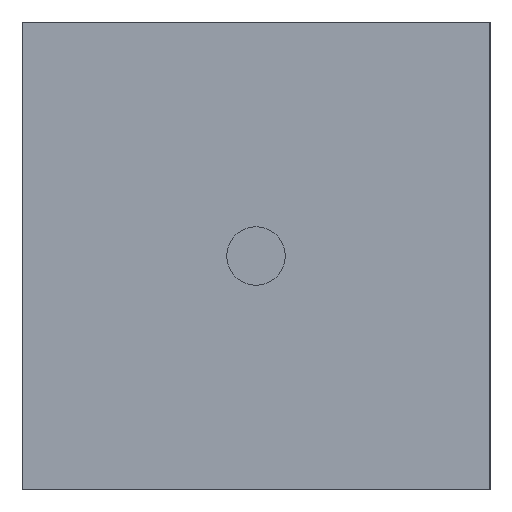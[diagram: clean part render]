
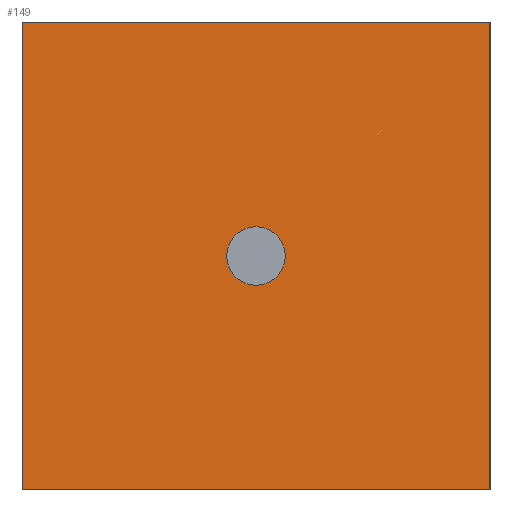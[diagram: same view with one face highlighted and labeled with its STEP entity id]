
A CAD part, left-side view. The second image highlights one B-rep face of the part: STEP entity #149.
In plain terms, the highlighted planar face has unit normal (-1, 0, 0).
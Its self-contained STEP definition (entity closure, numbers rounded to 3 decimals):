
#29=FACE_OUTER_BOUND('',#41,.T.);
#41=EDGE_LOOP('',(#113,#114,#115,#116));
#59=LINE('',#240,#71);
#60=LINE('',#243,#72);
#61=LINE('',#245,#73);
#62=LINE('',#246,#74);
#71=VECTOR('',#191,6.4);
#72=VECTOR('',#194,6.4);
#73=VECTOR('',#195,6.4);
#74=VECTOR('',#196,6.4);
#81=VERTEX_POINT('',#236);
#82=VERTEX_POINT('',#238);
#83=VERTEX_POINT('',#242);
#84=VERTEX_POINT('',#244);
#95=EDGE_CURVE('',#81,#82,#59,.T.);
#96=EDGE_CURVE('',#81,#83,#60,.T.);
#97=EDGE_CURVE('',#84,#82,#61,.T.);
#98=EDGE_CURVE('',#83,#84,#62,.T.);
#113=ORIENTED_EDGE('',*,*,#96,.F.);
#114=ORIENTED_EDGE('',*,*,#95,.T.);
#115=ORIENTED_EDGE('',*,*,#97,.F.);
#116=ORIENTED_EDGE('',*,*,#98,.F.);
#139=PLANE('',#165);
#149=ADVANCED_FACE('',(#29),#139,.T.);
#165=AXIS2_PLACEMENT_3D('',#241,#192,#193);
#191=DIRECTION('',(0.,1.,0.));
#192=DIRECTION('center_axis',(-1.,0.,0.));
#193=DIRECTION('ref_axis',(0.,0.,1.));
#194=DIRECTION('',(0.,0.,-1.));
#195=DIRECTION('',(0.,0.,1.));
#196=DIRECTION('',(0.,1.,0.));
#236=CARTESIAN_POINT('',(0.,0.,6.4));
#238=CARTESIAN_POINT('',(0.,6.4,6.4));
#240=CARTESIAN_POINT('',(0.,0.,6.4));
#241=CARTESIAN_POINT('Origin',(0.,0.,0.));
#242=CARTESIAN_POINT('',(0.,0.,0.));
#243=CARTESIAN_POINT('',(0.,0.,6.4));
#244=CARTESIAN_POINT('',(0.,6.4,0.));
#245=CARTESIAN_POINT('',(0.,6.4,6.4));
#246=CARTESIAN_POINT('',(0.,0.,0.));
